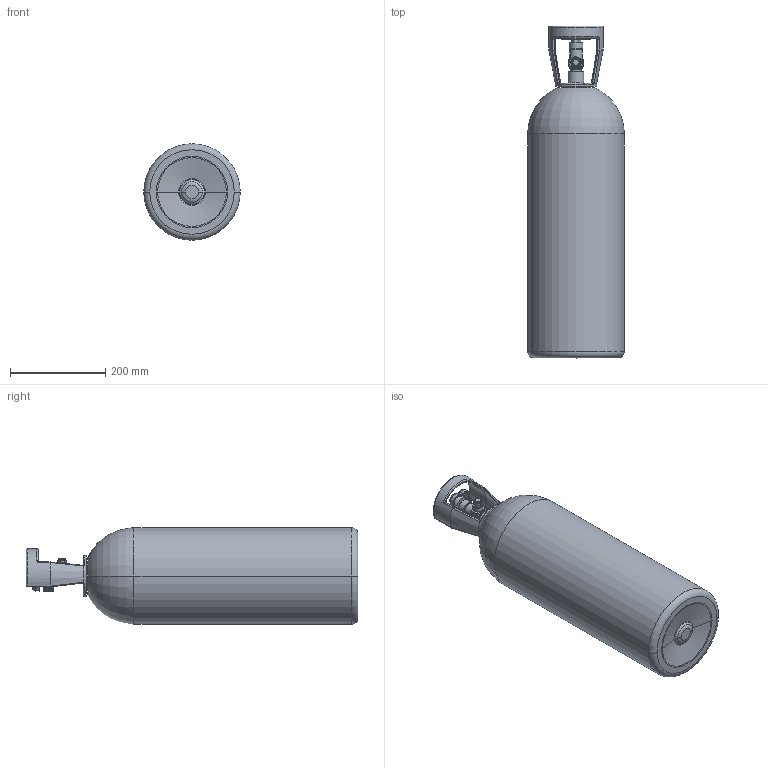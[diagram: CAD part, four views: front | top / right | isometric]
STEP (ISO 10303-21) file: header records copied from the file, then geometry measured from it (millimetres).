
FILE_DESCRIPTION (( 'STEP AP203' ), '1' );
FILE_NAME ('Bevi 20LB CO2 Tank.STEP', '2025-11-13T15:55:04', ( '' ), ( '' ), 'SwSTEP 2.0', 'SolidWorks 2025', '' );
FILE_SCHEMA (( 'CONFIG_CONTROL_DESIGN' ));
Length unit declared in the file: inch
Products named in the file (1): Bevi 20LB CO2 Tank
Bounding box: 203.2 x 698.69 x 203.2 mm (x, y, z)
Volume: 17671051.4 mm3; surface area: 464493 mm2
Topology: 4 solids, 4 shells, 401 faces, 946 edges, 547 vertices
Faces by surface type: cylinder 156, torus 83, plane 60, bspline 60, sphere 25, cone 17
Entity records: 15092 total; most frequent: CARTESIAN_POINT 6131, DIRECTION 1966, ORIENTED_EDGE 1858, EDGE_CURVE 929, AXIS2_PLACEMENT_3D 856, VERTEX_POINT 543, CIRCLE 514, EDGE_LOOP 412
